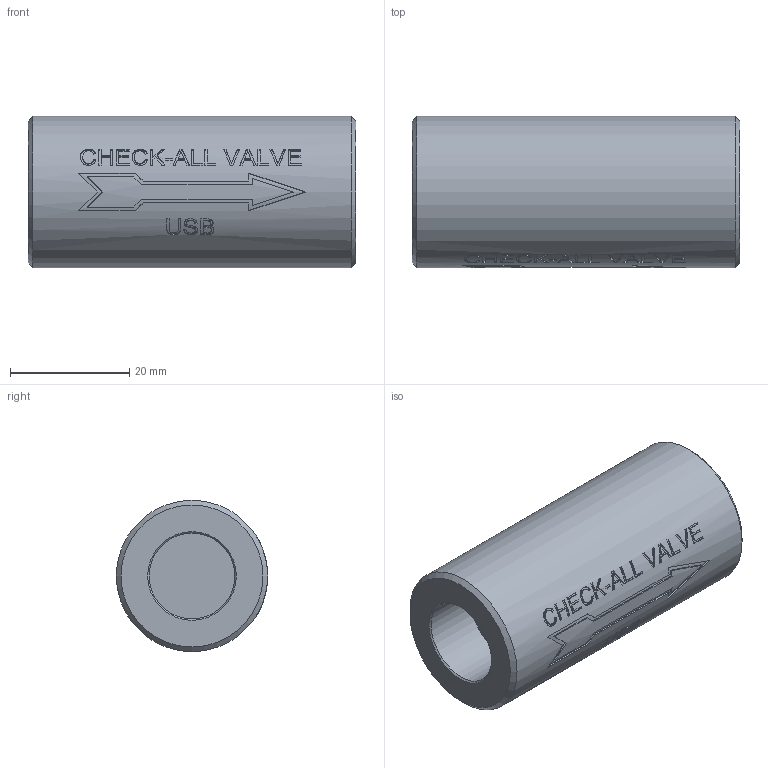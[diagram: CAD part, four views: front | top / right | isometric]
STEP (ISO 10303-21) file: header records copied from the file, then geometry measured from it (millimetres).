
FILE_DESCRIPTION(/* description */ ('Unknown'),/* implementation_level */ '2;1');
FILE_NAME(/* name */ 'USB',/* time_stamp */ '2018-01-05T11:05:41-06:00',/* author */ ('Unknown'),/* organization */ ('Unknown'),/* preprocessor_version */ 'ST-DEVELOPER v16.7',/* originating_system */ 'DEX',/* authorisation */ $);
FILE_SCHEMA (('AUTOMOTIVE_DESIGN {1 0 10303 214 3 1 1}'));
Length unit declared in the file: millimetre
Products named in the file (1): USB
Bounding box: 54.94 x 25.4 x 25.4 mm (x, y, z)
Volume: 24610.7 mm3; surface area: 6292.1 mm2
Topology: 1 solids, 1 shells, 187 faces, 477 edges, 317 vertices
Faces by surface type: plane 102, bspline 55, cylinder 26, cone 4
Full cylindrical faces by diameter (mm): 14.351 x2, 25.4 x1
Entity records: 9898 total; most frequent: CARTESIAN_POINT 5128, ORIENTED_EDGE 938, EDGE_CURVE 469, B_SPLINE_CURVE_WITH_KNOTS 459, VERTEX_POINT 316, DIRECTION 286, EDGE_LOOP 219, FACE_BOUND 219
